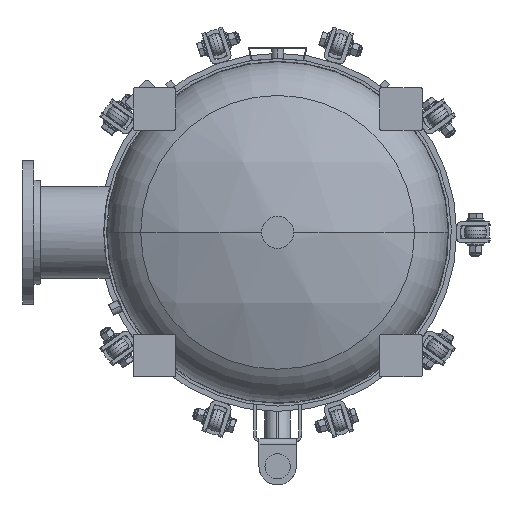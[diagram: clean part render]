
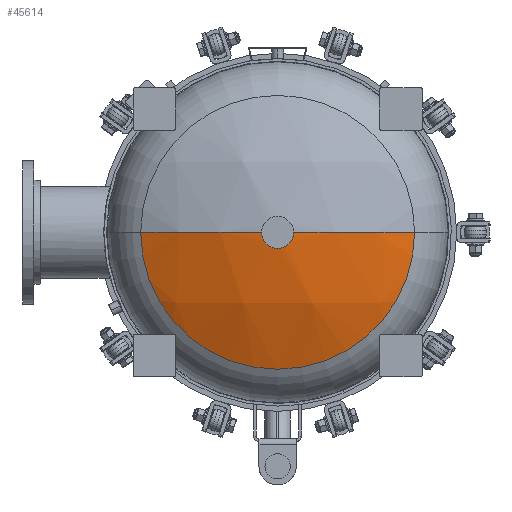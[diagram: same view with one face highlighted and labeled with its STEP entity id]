
A CAD part, front view. The second image highlights one B-rep face of the part: STEP entity #45614.
In plain terms, the highlighted spherical face has radius 730.04 mm.
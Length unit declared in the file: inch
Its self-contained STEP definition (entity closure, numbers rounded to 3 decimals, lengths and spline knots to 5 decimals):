
#267 = ORIENTED_EDGE ( 'NONE', *, *, #47033, .F. ) ;
#1096 = CARTESIAN_POINT ( 'NONE',  ( 1.5, -47.99122, 0. ) ) ;
#3105 = AXIS2_PLACEMENT_3D ( 'NONE', #56944, #21332, #47087 ) ;
#6923 = DIRECTION ( 'NONE',  ( 0., 0., 1. ) ) ;
#8844 = ORIENTED_EDGE ( 'NONE', *, *, #64019, .F. ) ;
#11088 = EDGE_CURVE ( 'NONE', #47060, #61382, #45001, .T. ) ;
#13923 = DIRECTION ( 'NONE',  ( 0., 0., 1. ) ) ;
#17057 = EDGE_CURVE ( 'NONE', #27939, #56001, #41228, .T. ) ;
#17346 = AXIS2_PLACEMENT_3D ( 'NONE', #53368, #6923, #28286 ) ;
#18002 = ORIENTED_EDGE ( 'NONE', *, *, #11088, .T. ) ;
#19019 = DIRECTION ( 'NONE',  ( 0., -1., 0. ) ) ;
#19305 = CIRCLE ( 'NONE', #3105, 1.5 ) ;
#19698 = CARTESIAN_POINT ( 'NONE',  ( 0., -47.99122, -1.5 ) ) ;
#21332 = DIRECTION ( 'NONE',  ( 0., -1., 0. ) ) ;
#22596 = CARTESIAN_POINT ( 'NONE',  ( 0., -44.99547, 0. ) ) ;
#26811 = AXIS2_PLACEMENT_3D ( 'NONE', #43943, #54446, #63935 ) ;
#27939 = VERTEX_POINT ( 'NONE', #19698 ) ;
#28286 = DIRECTION ( 'NONE',  ( 1., 0., 0. ) ) ;
#29747 = CARTESIAN_POINT ( 'NONE',  ( 12.85484, -44.99547, 0. ) ) ;
#39318 = VERTEX_POINT ( 'NONE', #54842 ) ;
#39784 = CIRCLE ( 'NONE', #26811, 28.74175 ) ;
#41228 = CIRCLE ( 'NONE', #52063, 1.5 ) ;
#43265 = DIRECTION ( 'NONE',  ( 1., 0., 0. ) ) ;
#43538 = CARTESIAN_POINT ( 'NONE',  ( -12.85484, -44.99547, 0. ) ) ;
#43871 = SPHERICAL_SURFACE ( 'NONE', #63898, 28.74175 ) ;
#43943 = CARTESIAN_POINT ( 'NONE',  ( 0., -19.28864, 0. ) ) ;
#45001 = CIRCLE ( 'NONE', #61210, 12.85484 ) ;
#45614 = ADVANCED_FACE ( 'NONE', ( #53717 ), #43871, .T. ) ;
#45777 = CARTESIAN_POINT ( 'NONE',  ( 0., -47.99122, 0. ) ) ;
#46556 = CIRCLE ( 'NONE', #17346, 28.74175 ) ;
#47033 = EDGE_CURVE ( 'NONE', #47060, #39318, #46556, .T. ) ;
#47060 = VERTEX_POINT ( 'NONE', #43538 ) ;
#47087 = DIRECTION ( 'NONE',  ( 0., 0., 1. ) ) ;
#48672 = ORIENTED_EDGE ( 'NONE', *, *, #62970, .T. ) ;
#49954 = DIRECTION ( 'NONE',  ( -1., 0., 0. ) ) ;
#50644 = ORIENTED_EDGE ( 'NONE', *, *, #17057, .F. ) ;
#52063 = AXIS2_PLACEMENT_3D ( 'NONE', #45777, #19019, #13923 ) ;
#53368 = CARTESIAN_POINT ( 'NONE',  ( 0., -19.28864, 0. ) ) ;
#53640 = EDGE_LOOP ( 'NONE', ( #18002, #48672, #50644, #8844, #267 ) ) ;
#53717 = FACE_OUTER_BOUND ( 'NONE', #53640, .T. ) ;
#54446 = DIRECTION ( 'NONE',  ( 0., 0., -1. ) ) ;
#54842 = CARTESIAN_POINT ( 'NONE',  ( -1.5, -47.99122, 0. ) ) ;
#55042 = CARTESIAN_POINT ( 'NONE',  ( 0., -19.28864, 0. ) ) ;
#56001 = VERTEX_POINT ( 'NONE', #1096 ) ;
#56944 = CARTESIAN_POINT ( 'NONE',  ( 0., -47.99122, 0. ) ) ;
#59211 = DIRECTION ( 'NONE',  ( 0., -1., 0. ) ) ;
#61210 = AXIS2_PLACEMENT_3D ( 'NONE', #22596, #59211, #43265 ) ;
#61382 = VERTEX_POINT ( 'NONE', #29747 ) ;
#62970 = EDGE_CURVE ( 'NONE', #61382, #56001, #39784, .T. ) ;
#63898 = AXIS2_PLACEMENT_3D ( 'NONE', #55042, #64207, #49954 ) ;
#63935 = DIRECTION ( 'NONE',  ( -1., 0., 0. ) ) ;
#64019 = EDGE_CURVE ( 'NONE', #39318, #27939, #19305, .T. ) ;
#64207 = DIRECTION ( 'NONE',  ( 0., 0., -1. ) ) ;
